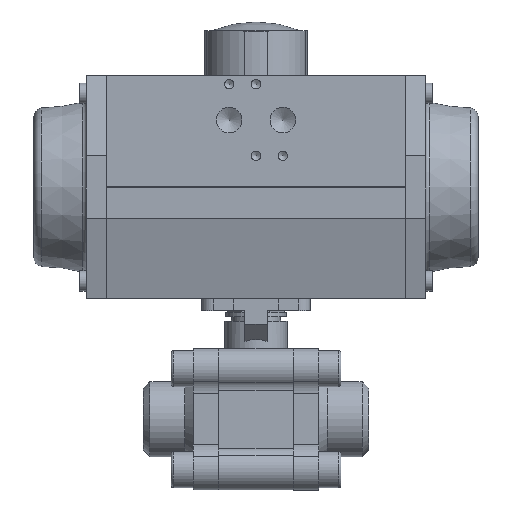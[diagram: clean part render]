
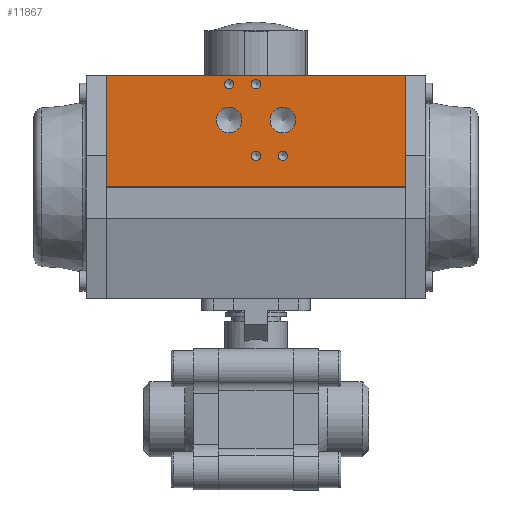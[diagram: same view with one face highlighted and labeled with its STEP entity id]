
A CAD part, top view. The second image highlights one B-rep face of the part: STEP entity #11867.
In plain terms, the highlighted planar face has unit normal (0, 0, 1) as drawn and (1, 0, 0) by its records, which use the part's own axes.
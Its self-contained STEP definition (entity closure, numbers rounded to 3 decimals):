
#5 = LINE ( 'NONE', #9011, #1955 ) ;
#138 = CARTESIAN_POINT ( 'NONE',  ( 49.5, 30., -17.723 ) ) ;
#226 = VERTEX_POINT ( 'NONE', #6050 ) ;
#389 = VECTOR ( 'NONE', #2124, 1000. ) ;
#506 = EDGE_CURVE ( 'NONE', #4929, #4929, #5034, .T. ) ;
#559 = ORIENTED_EDGE ( 'NONE', *, *, #8284, .T. ) ;
#727 = DIRECTION ( 'NONE',  ( 0., 1., 0. ) ) ;
#1218 = CARTESIAN_POINT ( 'NONE',  ( 49.5, 50., -67. ) ) ;
#1220 = LINE ( 'NONE', #3143, #10948 ) ;
#1226 = CARTESIAN_POINT ( 'NONE',  ( 49.5, 14., -14.1 ) ) ;
#1242 = EDGE_CURVE ( 'NONE', #11526, #9013, #1220, .T. ) ;
#1350 = AXIS2_PLACEMENT_3D ( 'NONE', #5005, #5919, #3178 ) ;
#1380 = CARTESIAN_POINT ( 'NONE',  ( 49.5, 46., 12. ) ) ;
#1390 = CARTESIAN_POINT ( 'NONE',  ( 49.5, 14., 0. ) ) ;
#1418 = CARTESIAN_POINT ( 'NONE',  ( 49.5, 0., -67. ) ) ;
#1490 = CIRCLE ( 'NONE', #4770, 5.723 ) ;
#1955 = VECTOR ( 'NONE', #727, 1000. ) ;
#1988 = EDGE_CURVE ( 'NONE', #8032, #8032, #8851, .T. ) ;
#2124 = DIRECTION ( 'NONE',  ( 0., 0., 1. ) ) ;
#2433 = EDGE_CURVE ( 'NONE', #3582, #3582, #3632, .T. ) ;
#2675 = CARTESIAN_POINT ( 'NONE',  ( 49.5, 46., 0. ) ) ;
#2876 = FACE_BOUND ( 'NONE', #11890, .T. ) ;
#2965 = DIRECTION ( 'NONE',  ( 0., 0., -1. ) ) ;
#2988 = FACE_BOUND ( 'NONE', #3830, .T. ) ;
#3102 = LINE ( 'NONE', #6811, #6588 ) ;
#3143 = CARTESIAN_POINT ( 'NONE',  ( 49.5, 0., -67. ) ) ;
#3178 = DIRECTION ( 'NONE',  ( 0., 0., -1. ) ) ;
#3285 = DIRECTION ( 'NONE',  ( 0., 1., 0. ) ) ;
#3315 = EDGE_CURVE ( 'NONE', #9013, #226, #3102, .T. ) ;
#3416 = ORIENTED_EDGE ( 'NONE', *, *, #2433, .F. ) ;
#3441 = AXIS2_PLACEMENT_3D ( 'NONE', #1380, #5082, #11655 ) ;
#3463 = CIRCLE ( 'NONE', #4424, 2.1 ) ;
#3582 = VERTEX_POINT ( 'NONE', #10958 ) ;
#3632 = CIRCLE ( 'NONE', #3441, 2.1 ) ;
#3779 = FACE_BOUND ( 'NONE', #10326, .T. ) ;
#3830 = EDGE_LOOP ( 'NONE', ( #8114 ) ) ;
#4424 = AXIS2_PLACEMENT_3D ( 'NONE', #1390, #5093, #8770 ) ;
#4562 = VERTEX_POINT ( 'NONE', #10711 ) ;
#4770 = AXIS2_PLACEMENT_3D ( 'NONE', #9322, #7584, #2965 ) ;
#4929 = VERTEX_POINT ( 'NONE', #6387 ) ;
#5005 = CARTESIAN_POINT ( 'NONE',  ( 49.5, 30., 12. ) ) ;
#5034 = CIRCLE ( 'NONE', #1350, 5.722 ) ;
#5082 = DIRECTION ( 'NONE',  ( 1., 0., 0. ) ) ;
#5093 = DIRECTION ( 'NONE',  ( 1., 0., 0. ) ) ;
#5104 = EDGE_LOOP ( 'NONE', ( #9877 ) ) ;
#5155 = DIRECTION ( 'NONE',  ( 0., 0., -1. ) ) ;
#5370 = ORIENTED_EDGE ( 'NONE', *, *, #3315, .F. ) ;
#5657 = VERTEX_POINT ( 'NONE', #10300 ) ;
#5919 = DIRECTION ( 'NONE',  ( 1., 0., 0. ) ) ;
#6050 = CARTESIAN_POINT ( 'NONE',  ( 49.5, 50., 67. ) ) ;
#6387 = CARTESIAN_POINT ( 'NONE',  ( 49.5, 30., 6.277 ) ) ;
#6390 = ORIENTED_EDGE ( 'NONE', *, *, #7408, .F. ) ;
#6431 = EDGE_CURVE ( 'NONE', #5657, #5657, #3463, .T. ) ;
#6441 = DIRECTION ( 'NONE',  ( 0., 0., -1. ) ) ;
#6586 = FACE_BOUND ( 'NONE', #10190, .T. ) ;
#6588 = VECTOR ( 'NONE', #10489, 1000. ) ;
#6811 = CARTESIAN_POINT ( 'NONE',  ( 49.5, 0., 67. ) ) ;
#7180 = DIRECTION ( 'NONE',  ( 1., 0., 0. ) ) ;
#7274 = ORIENTED_EDGE ( 'NONE', *, *, #8699, .T. ) ;
#7408 = EDGE_CURVE ( 'NONE', #8559, #8559, #1490, .T. ) ;
#7490 = FACE_BOUND ( 'NONE', #5104, .T. ) ;
#7556 = FACE_OUTER_BOUND ( 'NONE', #8917, .T. ) ;
#7584 = DIRECTION ( 'NONE',  ( 1., 0., 0. ) ) ;
#7644 = LINE ( 'NONE', #1218, #389 ) ;
#7829 = VERTEX_POINT ( 'NONE', #1226 ) ;
#8015 = DIRECTION ( 'NONE',  ( 1., 0., 0. ) ) ;
#8032 = VERTEX_POINT ( 'NONE', #8208 ) ;
#8114 = ORIENTED_EDGE ( 'NONE', *, *, #9573, .F. ) ;
#8208 = CARTESIAN_POINT ( 'NONE',  ( 49.5, 46., -2.1 ) ) ;
#8284 = EDGE_CURVE ( 'NONE', #4562, #226, #7644, .T. ) ;
#8288 = AXIS2_PLACEMENT_3D ( 'NONE', #2675, #7180, #6441 ) ;
#8417 = AXIS2_PLACEMENT_3D ( 'NONE', #1418, #11403, #3285 ) ;
#8559 = VERTEX_POINT ( 'NONE', #138 ) ;
#8570 = FACE_BOUND ( 'NONE', #10372, .T. ) ;
#8641 = ORIENTED_EDGE ( 'NONE', *, *, #1242, .F. ) ;
#8699 = EDGE_CURVE ( 'NONE', #11526, #4562, #5, .T. ) ;
#8770 = DIRECTION ( 'NONE',  ( 0., 0., -1. ) ) ;
#8851 = CIRCLE ( 'NONE', #8288, 2.1 ) ;
#8917 = EDGE_LOOP ( 'NONE', ( #559, #5370, #8641, #7274 ) ) ;
#8962 = ORIENTED_EDGE ( 'NONE', *, *, #506, .F. ) ;
#9011 = CARTESIAN_POINT ( 'NONE',  ( 49.5, 0., -67. ) ) ;
#9013 = VERTEX_POINT ( 'NONE', #11779 ) ;
#9322 = CARTESIAN_POINT ( 'NONE',  ( 49.5, 30., -12. ) ) ;
#9445 = CIRCLE ( 'NONE', #11376, 2.1 ) ;
#9508 = DIRECTION ( 'NONE',  ( 0., 0., 1. ) ) ;
#9573 = EDGE_CURVE ( 'NONE', #7829, #7829, #9445, .T. ) ;
#9775 = CARTESIAN_POINT ( 'NONE',  ( 49.5, 0., -67. ) ) ;
#9803 = CARTESIAN_POINT ( 'NONE',  ( 49.5, 14., -12. ) ) ;
#9877 = ORIENTED_EDGE ( 'NONE', *, *, #6431, .F. ) ;
#10190 = EDGE_LOOP ( 'NONE', ( #8962 ) ) ;
#10300 = CARTESIAN_POINT ( 'NONE',  ( 49.5, 14., -2.1 ) ) ;
#10326 = EDGE_LOOP ( 'NONE', ( #3416 ) ) ;
#10372 = EDGE_LOOP ( 'NONE', ( #10777 ) ) ;
#10444 = PLANE ( 'NONE',  #8417 ) ;
#10489 = DIRECTION ( 'NONE',  ( 0., 1., 0. ) ) ;
#10711 = CARTESIAN_POINT ( 'NONE',  ( 49.5, 50., -67. ) ) ;
#10777 = ORIENTED_EDGE ( 'NONE', *, *, #1988, .F. ) ;
#10948 = VECTOR ( 'NONE', #9508, 1000. ) ;
#10958 = CARTESIAN_POINT ( 'NONE',  ( 49.5, 46., 9.9 ) ) ;
#11376 = AXIS2_PLACEMENT_3D ( 'NONE', #9803, #8015, #5155 ) ;
#11403 = DIRECTION ( 'NONE',  ( 1., 0., 0. ) ) ;
#11526 = VERTEX_POINT ( 'NONE', #9775 ) ;
#11655 = DIRECTION ( 'NONE',  ( 0., 0., -1. ) ) ;
#11779 = CARTESIAN_POINT ( 'NONE',  ( 49.5, 0., 67. ) ) ;
#11867 = ADVANCED_FACE ( 'NONE', ( #3779, #2988, #7490, #8570, #2876, #6586, #7556 ), #10444, .T. ) ;
#11890 = EDGE_LOOP ( 'NONE', ( #6390 ) ) ;
